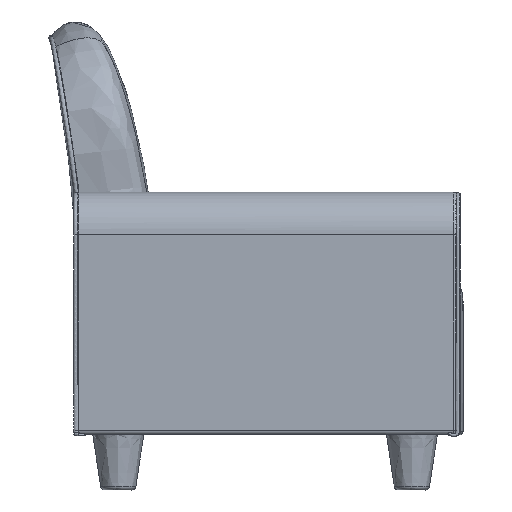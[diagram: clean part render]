
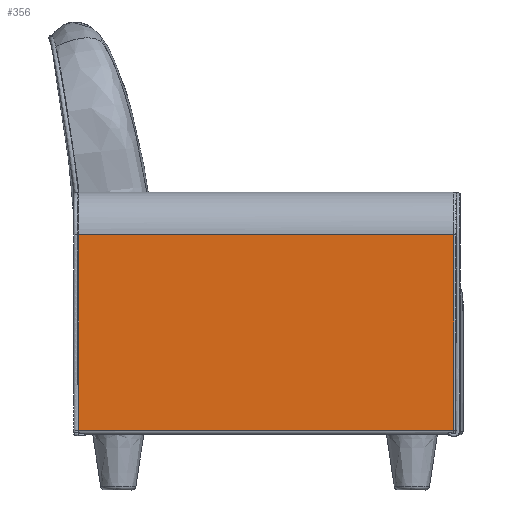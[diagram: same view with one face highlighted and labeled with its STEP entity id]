
A CAD part, left-side view. The second image highlights one B-rep face of the part: STEP entity #356.
In plain terms, the highlighted planar face has unit normal (-1, 0, 0).
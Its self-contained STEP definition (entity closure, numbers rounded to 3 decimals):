
#101=PLANE('',#2700);
#356=ADVANCED_FACE('',(#540),#101,.T.);
#540=FACE_OUTER_BOUND('',#724,.T.);
#724=EDGE_LOOP('',(#1480,#1481,#1482,#1483));
#1480=ORIENTED_EDGE('',*,*,#1906,.F.);
#1481=ORIENTED_EDGE('',*,*,#1930,.F.);
#1482=ORIENTED_EDGE('',*,*,#1921,.F.);
#1483=ORIENTED_EDGE('',*,*,#1931,.T.);
#1906=EDGE_CURVE('',#2522,#2521,#2280,.T.);
#1921=EDGE_CURVE('',#2530,#2527,#2290,.T.);
#1930=EDGE_CURVE('',#2527,#2522,#2295,.T.);
#1931=EDGE_CURVE('',#2530,#2521,#2296,.T.);
#2280=B_SPLINE_CURVE_WITH_KNOTS('',1,(#60899,#60900),.UNSPECIFIED.,.F.,
 .F.,(2,2),(0.,230.),.UNSPECIFIED.);
#2290=B_SPLINE_CURVE_WITH_KNOTS('',1,(#60955,#60956),.UNSPECIFIED.,.F.,
 .F.,(2,2),(0.,230.),.UNSPECIFIED.);
#2295=B_SPLINE_CURVE_WITH_KNOTS('',1,(#61000,#61001),.UNSPECIFIED.,.F.,
 .F.,(2,2),(0.,440.591),.UNSPECIFIED.);
#2296=B_SPLINE_CURVE_WITH_KNOTS('',1,(#61002,#61003),.UNSPECIFIED.,.F.,
 .F.,(2,2),(0.,440.591),.UNSPECIFIED.);
#2521=VERTEX_POINT('',#60835);
#2522=VERTEX_POINT('',#60836);
#2527=VERTEX_POINT('',#60841);
#2530=VERTEX_POINT('',#60844);
#2700=AXIS2_PLACEMENT_3D('',#60812,#2734,$);
#2734=DIRECTION('',(-1.,0.,0.));
#60812=CARTESIAN_POINT('',(-279.998,-32.179,323.12));
#60835=CARTESIAN_POINT('',(-279.998,452.591,300.));
#60836=CARTESIAN_POINT('',(-279.998,452.591,70.));
#60841=CARTESIAN_POINT('',(-279.998,12.,70.));
#60844=CARTESIAN_POINT('',(-279.998,12.,300.));
#60899=CARTESIAN_POINT('',(-279.998,452.591,70.));
#60900=CARTESIAN_POINT('',(-279.998,452.591,300.));
#60955=CARTESIAN_POINT('',(-279.998,12.,300.));
#60956=CARTESIAN_POINT('',(-279.998,12.,70.));
#61000=CARTESIAN_POINT('',(-279.998,12.,70.));
#61001=CARTESIAN_POINT('',(-279.998,452.591,70.));
#61002=CARTESIAN_POINT('',(-279.998,12.,300.));
#61003=CARTESIAN_POINT('',(-279.998,452.591,300.));
